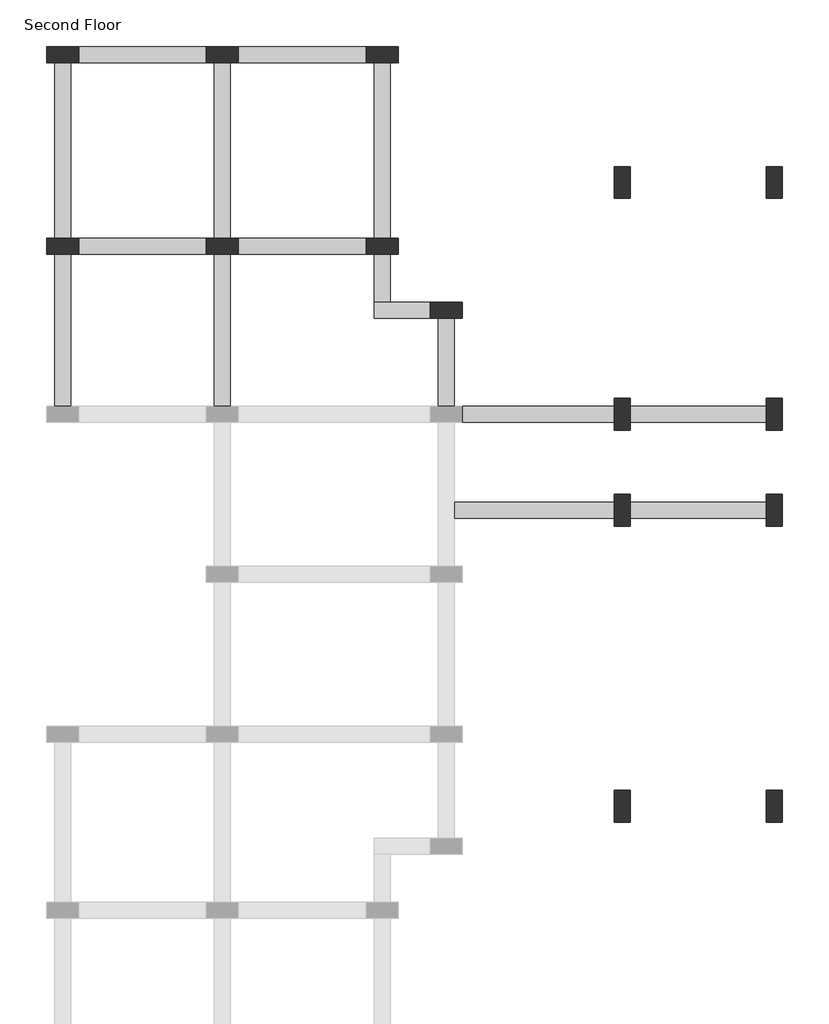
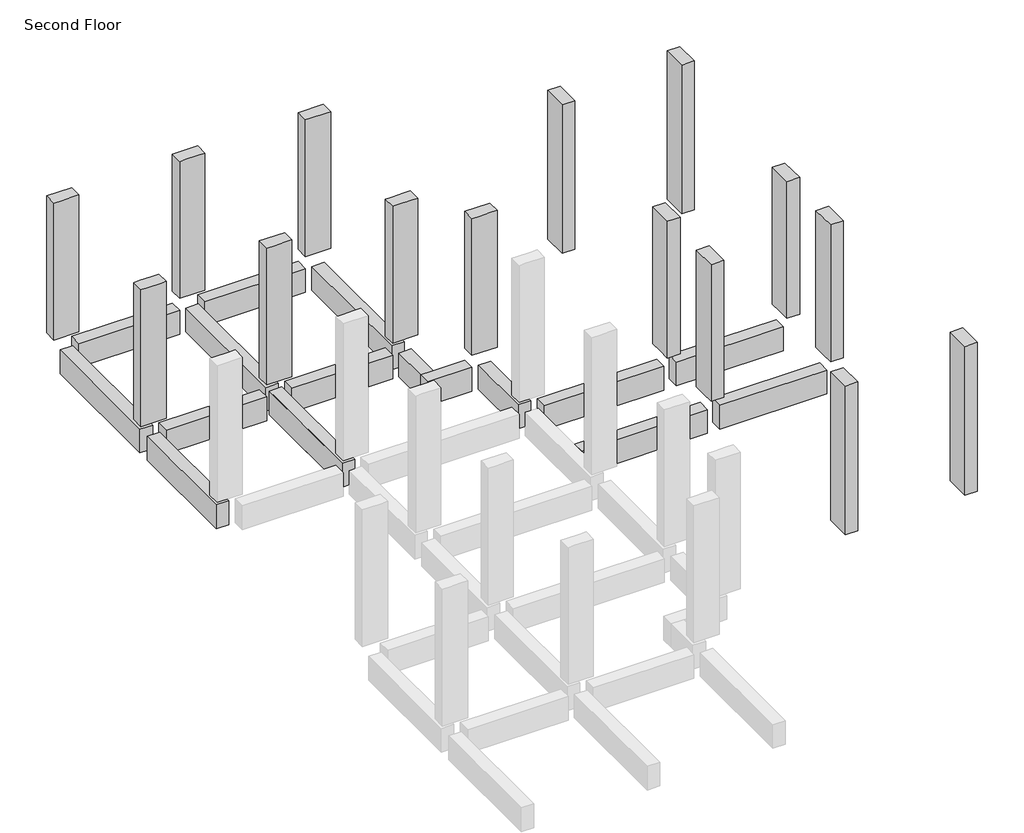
# One storey, part 2 of 2: 23 columns, 17 beams.
"""IFC4 building model written with IfcOpenShell, lengths in millimetres."""

import ifcopenshell
import ifcopenshell.guid

model = None  # the IFC model being written
_history = None  # IfcOwnerHistory: only IFC2X3 demands one
_inside = {}  # id of a spatial element -> (the spatial element, [elements in it])
_under = {}  # id of a project, library or spatial element -> (it, [spatial elements below it])
_declared = {}  # id of a project -> (the project, [libraries it declares])
_typed = {}  # id of a type object -> (the type object, [elements of that type])
_made_of = {}  # id of a material, layer set ... -> (it, [elements and type objects made of it])


def new_model(schema):
    """Start an empty IFC model of exactly this schema.

    Asked for "IFC4X3", IfcOpenShell would pick the latest addendum, in which some entities
    have other attributes; the version numbers below select the first issue.
    IFC2X3 requires an IfcOwnerHistory on every rooted entity: one is made here for all.
    """
    global model, _history
    if schema == "IFC4X3":
        model = ifcopenshell.file(schema_version=(4, 3, 0, 0))
    else:
        model = ifcopenshell.file(schema=schema)
    _inside.clear()
    _under.clear()
    _declared.clear()
    _typed.clear()
    _made_of.clear()
    _history = None
    if model.schema == "IFC2X3":
        org = make("IfcOrganization", Name="unknown")
        user = make(
            "IfcPersonAndOrganization",
            ThePerson=make("IfcPerson", FamilyName="unknown"),
            TheOrganization=org,
        )
        app = make(
            "IfcApplication",
            ApplicationDeveloper=org,
            Version="unknown",
            ApplicationFullName="unknown",
            ApplicationIdentifier="unknown",
        )
        _history = make(
            "IfcOwnerHistory",
            OwningUser=user,
            OwningApplication=app,
            ChangeAction="ADDED",
            CreationDate=0,
        )
    return model


def make(cls, **values):
    """One entity of the class cls with the attributes given. An attribute that is None is left unset."""
    return model.create_entity(
        cls, **{name: value for name, value in values.items() if value is not None}
    )


def rooted(cls, **values):
    """An entity with a GlobalId (a new one), such as an element, a storey or a relation."""
    return make(cls, GlobalId=ifcopenshell.guid.new(), OwnerHistory=_history, **values)


def si_unit(unit_type, name, prefix=None):
    """IfcSIUnit, for example si_unit("LENGTHUNIT", "METRE", prefix="MILLI")."""
    return make("IfcSIUnit", UnitType=unit_type, Prefix=prefix, Name=name)


def assignment(units):
    """IfcUnitAssignment: the units of a project."""
    return None if units is None else make("IfcUnitAssignment", Units=units)


def point(xyz):
    """IfcCartesianPoint."""
    return None if xyz is None else make("IfcCartesianPoint", Coordinates=xyz)


def direction(xyz):
    """IfcDirection."""
    return None if xyz is None else make("IfcDirection", DirectionRatios=xyz)


def frame(location, z_axis=None, x_axis=None):
    """IfcAxis2Placement3D, a coordinate frame: its origin and axes. An axis left out is left unset."""
    return make(
        "IfcAxis2Placement3D",
        Location=point(location),
        Axis=direction(z_axis),
        RefDirection=direction(x_axis),
    )


def origin():
    """The frame at (0, 0, 0) with its axes left unset."""
    return frame((0.0, 0.0, 0.0))


def place(relative_to, where):
    """IfcLocalPlacement: puts the frame where relative to a parent placement (None: the world)."""
    return make(
        "IfcLocalPlacement", PlacementRelTo=relative_to, RelativePlacement=where
    )


def context(
    kind, dimensions, precision=None, world=None, true_north=None, identifier=None
):
    """IfcGeometricRepresentationContext, for example the 3D "Model" context."""
    return make(
        "IfcGeometricRepresentationContext",
        ContextIdentifier=identifier,
        ContextType=kind,
        CoordinateSpaceDimension=dimensions,
        Precision=precision,
        WorldCoordinateSystem=world,
        TrueNorth=true_north,
    )


def project(units=None, contexts=None):
    """IfcProject with its units and contexts."""
    return rooted(
        "IfcProject",
        Name="project",
        RepresentationContexts=contexts,
        UnitsInContext=assignment(units),
    )


def spatial(cls, under=None, at=None, **own):
    """A site, building, storey or space (cls), placed at a placement, below another one or the project."""
    s = rooted(cls, ObjectPlacement=at, **own)
    if under is not None:
        _under.setdefault(under.id(), (under, []))[1].append(s)
    return s


def polyline(points):
    """IfcPolyline through the points."""
    return make("IfcPolyline", Points=[point(p) for p in points])


def outline(outer, holes=None, kind="AREA"):
    """IfcArbitraryClosedProfileDef: a profile drawn as a closed curve; with holes, ...WithVoids."""
    if holes is None:
        return make("IfcArbitraryClosedProfileDef", ProfileType=kind, OuterCurve=outer)
    return make(
        "IfcArbitraryProfileDefWithVoids",
        ProfileType=kind,
        OuterCurve=outer,
        InnerCurves=holes,
    )


def extrude(swept, where, along, depth):
    """IfcExtrudedAreaSolid: the profile swept, set in the frame where, extruded along a direction by depth."""
    return make(
        "IfcExtrudedAreaSolid",
        SweptArea=swept,
        Position=where,
        ExtrudedDirection=direction(along),
        Depth=depth,
    )


def faces_of(points, faces, orient=None, outer=None):
    """IfcFace entities. A face is a list of loops; a loop is a list of indices into points, from 0.

    orient and outer hold one flag for each loop. By default every Orientation is true, the
    first loop of a face is its IfcFaceOuterBound and the others are IfcFaceBound.
    """
    made = []
    for i, loops in enumerate(faces):
        bounds = []
        for j, loop in enumerate(loops):
            is_outer = j == 0 if outer is None else outer[i][j]
            bounds.append(
                make(
                    "IfcFaceOuterBound" if is_outer else "IfcFaceBound",
                    Bound=make("IfcPolyLoop", Polygon=[points[k] for k in loop]),
                    Orientation=True if orient is None else orient[i][j],
                )
            )
        made.append(make("IfcFace", Bounds=bounds))
    return made


def faceted_brep(points, faces, orient=None, outer=None, voids=None):
    """IfcFacetedBrep: a solid bounded by flat faces; with voids (closed shells), ...WithVoids."""
    shared = [point(p) for p in points]
    hull = make("IfcClosedShell", CfsFaces=faces_of(shared, faces, orient, outer))
    if voids is None:
        return make("IfcFacetedBrep", Outer=hull)
    return make(
        "IfcFacetedBrepWithVoids",
        Outer=hull,
        Voids=[
            make(cls, CfsFaces=faces_of(shared, fs, o, b)) for cls, fs, o, b in voids
        ],
    )


def shape(context_of_items, identifier, shape_type, items):
    """IfcShapeRepresentation: the items that make up one representation, for example the "Body"."""
    return make(
        "IfcShapeRepresentation",
        ContextOfItems=context_of_items,
        RepresentationIdentifier=identifier,
        RepresentationType=shape_type,
        Items=items,
    )


def made_of(thing, what):
    """Note that an element or type object is made of a material, layer set ...; save() writes the relation."""
    if what is not None:
        _made_of.setdefault(what.id(), (what, []))[1].append(thing)
    return thing


def element(
    cls,
    number,
    at=None,
    inside=None,
    cuts=None,
    type_object=None,
    material=None,
    context=None,
    identifier="Body",
    shape_type=None,
    held_by="IfcProductDefinitionShape",
    body=None,
    shapes=None,
    **own,
):
    """One element of the class cls, such as IfcWall. Its Tag is "e" and its number.

    at: its placement. inside: the storey or other place that contains it. cuts: it is an
    opening in that element (IfcRelVoidsElement). A single representation is given by context,
    identifier, shape_type and body (its items); several are given by shapes. held_by: the class
    of the entity that holds the representations. save() writes the other relations.
    """
    e = rooted(cls, Tag="e%d" % number, ObjectPlacement=at, **own)
    if body is not None:
        shapes = [shape(context, identifier, shape_type, body)]
    if shapes is not None:
        e.Representation = make(held_by, Representations=shapes)
    if inside is not None:
        _inside.setdefault(inside.id(), (inside, []))[1].append(e)
    if cuts is not None:
        rooted(
            "IfcRelVoidsElement", RelatingBuildingElement=cuts, RelatedOpeningElement=e
        )
    if type_object is not None:
        _typed.setdefault(type_object.id(), (type_object, []))[1].append(e)
    return made_of(e, material)


def aggregate(whole, parts):
    """IfcRelAggregates: a whole, such as a stair, and the parts it consists of."""
    return rooted("IfcRelAggregates", RelatingObject=whole, RelatedObjects=parts)


def save(model, path):
    """Write the relations noted so far, then the file.

    IfcRelAggregates (storeys below a building ...), IfcRelContainedInSpatialStructure (elements
    in a storey), IfcRelDefinesByType, IfcRelAssociatesMaterial and IfcRelDeclares: one each for
    every whole, place, type object, material and project.
    """
    for whole, parts in _under.values():
        aggregate(whole, parts)
    for where, things in _inside.values():
        rooted(
            "IfcRelContainedInSpatialStructure",
            RelatedElements=things,
            RelatingStructure=where,
        )
    for kind, things in _typed.values():
        rooted("IfcRelDefinesByType", RelatedObjects=things, RelatingType=kind)
    for what, things in _made_of.values():
        rooted("IfcRelAssociatesMaterial", RelatedObjects=things, RelatingMaterial=what)
    for by, libraries in _declared.values():
        rooted("IfcRelDeclares", RelatingContext=by, RelatedDefinitions=libraries)
    model.write(path)


model = new_model("IFC4")

# Units and contexts
model_context = context("Model", 3, world=origin())
ifc_project = project(units=[si_unit("LENGTHUNIT", "METRE", prefix="MILLI")], contexts=[model_context])

# Site, building, storey
site = spatial("IfcSite", under=ifc_project)
building = spatial("IfcBuilding", under=site)
storey = spatial("IfcBuildingStorey", under=building, Name="Second Floor", Elevation=3810.0)

# Beams
placement = place(None, origin())
element("IfcBeam", 1, ObjectType="Concrete-Rectangular Beam : 12 x 24", at=placement, inside=storey, context=model_context, shape_type="SweptSolid", body=[
    extrude(outline(polyline([(-15067.9554735, 14342.1867088), (-15067.9554735, 14646.9867088), (-12629.5554735, 14646.9867088), (-12629.5554735, 14342.1867088), (-15067.9554735, 14342.1867088)])), frame((0.0, 0.0, 2895.6), z_axis=(0.0, 0.0, 1.0), x_axis=(1.0, 0.0, 0.0)), (0.0, 0.0, 1.0), 609.6),
])
element("IfcBeam", 2, ObjectType="Concrete-Rectangular Beam : 12 x 24", at=placement, inside=storey, context=model_context, shape_type="SweptSolid", body=[
    extrude(outline(polyline([(-12019.9554735, 14342.1867088), (-12019.9554735, 14646.9867088), (-9581.5554735, 14646.9867088), (-9581.5554735, 14342.1867088), (-12019.9554735, 14342.1867088)])), frame((0.0, 0.0, 2895.6), z_axis=(0.0, 0.0, 1.0), x_axis=(1.0, 0.0, 0.0)), (0.0, 0.0, 1.0), 609.6),
])
element("IfcBeam", 3, ObjectType="Concrete-Rectangular Beam : 12 x 24", at=placement, inside=storey, context=model_context, shape_type="SweptSolid", body=[
    extrude(outline(polyline([(-9429.1554735, 14342.1867088), (-9124.3554735, 14342.1867088), (-9124.3554735, 10989.3867088), (-9429.1554735, 10989.3867088), (-9429.1554735, 14342.1867088)])), frame((0.0, 0.0, 2895.6), z_axis=(0.0, 0.0, 1.0), x_axis=(1.0, 0.0, 0.0)), (0.0, 0.0, 1.0), 609.6),
])
element("IfcBeam", 4, ObjectType="Concrete-Rectangular Beam : 12 x 24", at=placement, inside=storey, context=model_context, shape_type="SweptSolid", body=[
    extrude(outline(polyline([(-7905.1554735, 7788.9867088), (-8209.9554735, 7788.9867088), (-8209.9554735, 9465.3867088), (-7905.1554735, 9465.3867088), (-7905.1554735, 7788.9867088)])), frame((0.0, 0.0, 2895.6), z_axis=(0.0, 0.0, 1.0), x_axis=(1.0, 0.0, 0.0)), (0.0, 0.0, 1.0), 609.6),
])
element("IfcBeam", 5, ObjectType="Concrete-Rectangular Beam : 12 x 24", at=placement, inside=storey, context=model_context, shape_type="Brep", body=[
    faceted_brep([(-9429.1554735, 9770.1867088, 3505.2), (-9429.1554735, 9465.3867088, 3505.2), (-8362.3554735, 9465.3867088, 3505.2), (-8362.3554735, 9770.1867088, 3505.2), (-9124.3554735, 9770.1867088, 3505.2), (-9429.1554735, 9770.1867088, 2895.6), (-8362.3554735, 9770.1867088, 2895.6), (-9124.3554735, 9770.1867088, 2895.6), (-9429.1554735, 9465.3867088, 2895.6), (-8362.3554735, 9465.3867088, 2895.6)], [[[0, 1, 2, 3, 4]], [[5, 0, 4, 3, 6, 7]], [[8, 5, 7, 6, 9]], [[1, 8, 9, 2]], [[3, 2, 9, 6]], [[1, 0, 5, 8]]]),
])
element("IfcBeam", 6, ObjectType="Concrete-Rectangular Beam : 12 x 24", at=placement, inside=storey, context=model_context, shape_type="SweptSolid", body=[
    extrude(outline(polyline([(-15525.1554735, 14342.1867088), (-15220.3554735, 14342.1867088), (-15220.3554735, 10989.3867088), (-15525.1554735, 10989.3867088), (-15525.1554735, 14342.1867088)])), frame((0.0, 0.0, 2895.6), z_axis=(0.0, 0.0, 1.0), x_axis=(1.0, 0.0, 0.0)), (0.0, 0.0, 1.0), 609.6),
])
element("IfcBeam", 7, ObjectType="Concrete-Rectangular Beam : 12 x 24", at=placement, inside=storey, context=model_context, shape_type="SweptSolid", body=[
    extrude(outline(polyline([(-12477.1554735, 14342.1867088), (-12172.3554735, 14342.1867088), (-12172.3554735, 10989.3867088), (-12477.1554735, 10989.3867088), (-12477.1554735, 14342.1867088)])), frame((0.0, 0.0, 2895.6), z_axis=(0.0, 0.0, 1.0), x_axis=(1.0, 0.0, 0.0)), (0.0, 0.0, 1.0), 609.6),
])
element("IfcBeam", 8, ObjectType="Concrete-Rectangular Beam : 12 x 24", at=placement, inside=storey, context=model_context, shape_type="SweptSolid", body=[
    extrude(outline(polyline([(-15067.9554735, 10684.5867088), (-15067.9554735, 10989.3867088), (-12629.5554735, 10989.3867088), (-12629.5554735, 10684.5867088), (-15067.9554735, 10684.5867088)])), frame((0.0, 0.0, 2895.6), z_axis=(0.0, 0.0, 1.0), x_axis=(1.0, 0.0, 0.0)), (0.0, 0.0, 1.0), 609.6),
])
element("IfcBeam", 9, ObjectType="Concrete-Rectangular Beam : 12 x 24", at=placement, inside=storey, context=model_context, shape_type="SweptSolid", body=[
    extrude(outline(polyline([(-12477.1554735, 10836.9867088), (-12172.3554735, 10836.9867088), (-12172.3554735, 7788.9867088), (-12477.1554735, 7788.9867088), (-12477.1554735, 10836.9867088)])), frame((0.0, 0.0, 2895.6), z_axis=(0.0, 0.0, 1.0), x_axis=(1.0, 0.0, 0.0)), (0.0, 0.0, 1.0), 609.6),
])
element("IfcBeam", 10, ObjectType="Concrete-Rectangular Beam : 12 x 24", at=placement, inside=storey, context=model_context, shape_type="SweptSolid", body=[
    extrude(outline(polyline([(-15525.1554735, 10684.5867088), (-15220.3554735, 10684.5867088), (-15220.3554735, 7788.9867088), (-15525.1554735, 7788.9867088), (-15525.1554735, 10684.5867088)])), frame((0.0, 0.0, 2895.6), z_axis=(0.0, 0.0, 1.0), x_axis=(1.0, 0.0, 0.0)), (0.0, 0.0, 1.0), 609.6),
])
element("IfcBeam", 11, ObjectType="Concrete-Rectangular Beam : 12 x 24", at=placement, inside=storey, context=model_context, shape_type="SweptSolid", body=[
    extrude(outline(polyline([(-4552.3554735, 5655.3867088), (-4552.3554735, 5960.1867088), (-1961.5554735, 5960.1867088), (-1961.5554735, 5655.3867088), (-4552.3554735, 5655.3867088)])), frame((0.0, 0.0, 2895.6), z_axis=(0.0, 0.0, 1.0), x_axis=(1.0, 0.0, 0.0)), (0.0, 0.0, 1.0), 609.6),
])
element("IfcBeam", 12, ObjectType="Concrete-Rectangular Beam : 12 x 24", at=placement, inside=storey, context=model_context, shape_type="SweptSolid", body=[
    extrude(outline(polyline([(-4857.1554735, 7788.9867088), (-4857.1554735, 7484.1867088), (-7752.7554735, 7484.1867088), (-7752.7554735, 7788.9867088), (-4857.1554735, 7788.9867088)])), frame((0.0, 0.0, 2895.6), z_axis=(0.0, 0.0, 1.0), x_axis=(1.0, 0.0, 0.0)), (0.0, 0.0, 1.0), 609.6),
])
element("IfcBeam", 13, ObjectType="Concrete-Rectangular Beam : 12 x 24", at=placement, inside=storey, context=model_context, shape_type="SweptSolid", body=[
    extrude(outline(polyline([(-4857.1554735, 5960.1867088), (-4857.1554735, 5655.3867088), (-7905.1554735, 5655.3867088), (-7905.1554735, 5960.1867088), (-4857.1554735, 5960.1867088)])), frame((0.0, 0.0, 2895.6), z_axis=(0.0, 0.0, 1.0), x_axis=(1.0, 0.0, 0.0)), (0.0, 0.0, 1.0), 609.6),
])
element("IfcBeam", 14, ObjectType="Concrete-Rectangular Beam : 12 x 24", at=placement, inside=storey, context=model_context, shape_type="SweptSolid", body=[
    extrude(outline(polyline([(-4552.3554735, 7484.1867088), (-4552.3554735, 7788.9867088), (-1961.5554735, 7788.9867088), (-1961.5554735, 7484.1867088), (-4552.3554735, 7484.1867088)])), frame((0.0, 0.0, 2895.6), z_axis=(0.0, 0.0, 1.0), x_axis=(1.0, 0.0, 0.0)), (0.0, 0.0, 1.0), 609.6),
])
element("IfcBeam", 15, ObjectType="Concrete-Rectangular Beam : 12 x 24", at=placement, inside=storey, context=model_context, shape_type="SweptSolid", body=[
    extrude(outline(polyline([(-12477.1554735, 10684.5867088), (-12172.3554735, 10684.5867088), (-12172.3554735, 7788.9867088), (-12477.1554735, 7788.9867088), (-12477.1554735, 10684.5867088)])), frame((0.0, 0.0, 2895.6), z_axis=(0.0, 0.0, 1.0), x_axis=(1.0, 0.0, 0.0)), (0.0, 0.0, 1.0), 609.6),
])
element("IfcBeam", 16, ObjectType="Concrete-Rectangular Beam : 12 x 24", at=placement, inside=storey, context=model_context, shape_type="SweptSolid", body=[
    extrude(outline(polyline([(-12019.9554735, 10684.5867088), (-12019.9554735, 10989.3867088), (-9581.5554735, 10989.3867088), (-9581.5554735, 10684.5867088), (-12019.9554735, 10684.5867088)])), frame((0.0, 0.0, 2895.6), z_axis=(0.0, 0.0, 1.0), x_axis=(1.0, 0.0, 0.0)), (0.0, 0.0, 1.0), 609.6),
])
element("IfcBeam", 17, ObjectType="Concrete-Rectangular Beam : 12 x 24", at=placement, inside=storey, context=model_context, shape_type="SweptSolid", body=[
    extrude(outline(polyline([(-9124.3554735, 9770.1867088), (-9429.1554735, 9770.1867088), (-9429.1554735, 10684.5867088), (-9124.3554735, 10684.5867088), (-9124.3554735, 9770.1867088)])), frame((0.0, 0.0, 2895.6), z_axis=(0.0, 0.0, 1.0), x_axis=(1.0, 0.0, 0.0)), (0.0, 0.0, 1.0), 609.6),
])

# Columns
element("IfcColumn", 18, ObjectType="Concrete-Rectangular-Column : 12 x 24", at=placement, inside=storey, context=model_context, shape_type="Brep", body=[
    faceted_brep([(-15677.5554735, 14646.9867088, 3810.0), (-15067.9554735, 14646.9867088, 3810.0), (-15067.9554735, 14342.1867088, 3810.0), (-15677.5554735, 14342.1867088, 3810.0), (-15677.5554735, 14646.9867088, 7315.2), (-15067.9554735, 14646.9867088, 7315.2), (-15067.9554735, 14646.9867088, 6705.6), (-15067.9554735, 14342.1867088, 7315.2), (-15067.9554735, 14342.1867088, 6705.6), (-15220.3554735, 14342.1867088, 7315.2), (-15525.1554735, 14342.1867088, 7315.2), (-15677.5554735, 14342.1867088, 7315.2)], [[[0, 1, 2, 3]], [[4, 5, 6, 1, 0]], [[5, 7, 8, 2, 1, 6]], [[7, 9, 10, 11, 3, 2, 8]], [[11, 4, 0, 3]], [[4, 11, 10, 9, 7, 5]]]),
])
element("IfcColumn", 19, ObjectType="Concrete-Rectangular-Column : 12 x 24", at=placement, inside=storey, context=model_context, shape_type="Brep", body=[
    faceted_brep([(-12629.5554735, 14646.9867088, 3810.0), (-12019.9554735, 14646.9867088, 3810.0), (-12019.9554735, 14342.1867088, 3810.0), (-12629.5554735, 14342.1867088, 3810.0), (-12629.5554735, 14646.9867088, 7315.2), (-12019.9554735, 14646.9867088, 7315.2), (-12019.9554735, 14646.9867088, 6705.6), (-12629.5554735, 14646.9867088, 6705.6), (-12019.9554735, 14342.1867088, 7315.2), (-12019.9554735, 14342.1867088, 6705.6), (-12172.3554735, 14342.1867088, 7315.2), (-12477.1554735, 14342.1867088, 7315.2), (-12629.5554735, 14342.1867088, 7315.2), (-12629.5554735, 14342.1867088, 6705.6)], [[[0, 1, 2, 3]], [[4, 5, 6, 1, 0, 7]], [[5, 8, 9, 2, 1, 6]], [[8, 10, 11, 12, 13, 3, 2, 9]], [[12, 4, 7, 0, 3, 13]], [[4, 12, 11, 10, 8, 5]]]),
])
element("IfcColumn", 20, ObjectType="Concrete-Rectangular-Column : 12 x 24", at=placement, inside=storey, context=model_context, shape_type="Brep", body=[
    faceted_brep([(-9581.5554735, 14646.9867088, 3810.0), (-8971.9554735, 14646.9867088, 3810.0), (-8971.9554735, 14342.1867088, 3810.0), (-9581.5554735, 14342.1867088, 3810.0), (-9581.5554735, 14646.9867088, 7315.2), (-8971.9554735, 14646.9867088, 7315.2), (-9581.5554735, 14646.9867088, 6705.6), (-8971.9554735, 14342.1867088, 7315.2), (-9124.3554735, 14342.1867088, 7315.2), (-9429.1554735, 14342.1867088, 7315.2), (-9581.5554735, 14342.1867088, 7315.2), (-9581.5554735, 14342.1867088, 6705.6)], [[[0, 1, 2, 3]], [[4, 5, 1, 0, 6]], [[5, 7, 2, 1]], [[7, 8, 9, 10, 11, 3, 2]], [[10, 4, 6, 0, 3, 11]], [[4, 10, 9, 8, 7, 5]]]),
])
element("IfcColumn", 21, ObjectType="Concrete-Rectangular-Column : 12 x 24", at=placement, inside=storey, context=model_context, shape_type="Brep", body=[
    faceted_brep([(-15677.5554735, 10989.3867088, 3810.0), (-15067.9554735, 10989.3867088, 3810.0), (-15067.9554735, 10684.5867088, 3810.0), (-15677.5554735, 10684.5867088, 3810.0), (-15677.5554735, 10989.3867088, 7315.2), (-15525.1554735, 10989.3867088, 7315.2), (-15220.3554735, 10989.3867088, 7315.2), (-15067.9554735, 10989.3867088, 7315.2), (-15067.9554735, 10989.3867088, 6705.6), (-15067.9554735, 10684.5867088, 7315.2), (-15067.9554735, 10684.5867088, 6705.6), (-15220.3554735, 10684.5867088, 7315.2), (-15525.1554735, 10684.5867088, 7315.2), (-15677.5554735, 10684.5867088, 7315.2)], [[[0, 1, 2, 3]], [[4, 5, 6, 7, 8, 1, 0]], [[7, 9, 10, 2, 1, 8]], [[9, 11, 12, 13, 3, 2, 10]], [[13, 4, 0, 3]], [[4, 13, 12, 11, 9, 7, 6, 5]]]),
])
element("IfcColumn", 22, ObjectType="Concrete-Rectangular-Column : 12 x 24", at=placement, inside=storey, context=model_context, shape_type="Brep", body=[
    faceted_brep([(-12629.5554735, 10989.3867088, 3810.0), (-12019.9554735, 10989.3867088, 3810.0), (-12019.9554735, 10684.5867088, 3810.0), (-12629.5554735, 10684.5867088, 3810.0), (-12629.5554735, 10989.3867088, 7315.2), (-12477.1554735, 10989.3867088, 7315.2), (-12172.3554735, 10989.3867088, 7315.2), (-12019.9554735, 10989.3867088, 7315.2), (-12019.9554735, 10989.3867088, 6705.6), (-12629.5554735, 10989.3867088, 6705.6), (-12019.9554735, 10684.5867088, 7315.2), (-12019.9554735, 10684.5867088, 6705.6), (-12172.3554735, 10684.5867088, 7315.2), (-12477.1554735, 10684.5867088, 7315.2), (-12629.5554735, 10684.5867088, 7315.2), (-12629.5554735, 10684.5867088, 6705.6)], [[[0, 1, 2, 3]], [[4, 5, 6, 7, 8, 1, 0, 9]], [[7, 10, 11, 2, 1, 8]], [[10, 12, 13, 14, 15, 3, 2, 11]], [[14, 4, 9, 0, 3, 15]], [[4, 14, 13, 12, 10, 7, 6, 5]]]),
])
element("IfcColumn", 23, ObjectType="Concrete-Rectangular-Column : 12 x 24", at=placement, inside=storey, context=model_context, shape_type="Brep", body=[
    faceted_brep([(-9581.5554735, 10989.3867088, 3810.0), (-8971.9554735, 10989.3867088, 3810.0), (-8971.9554735, 10684.5867088, 3810.0), (-9581.5554735, 10684.5867088, 3810.0), (-9581.5554735, 10989.3867088, 7315.2), (-9429.1554735, 10989.3867088, 7315.2), (-9124.3554735, 10989.3867088, 7315.2), (-8971.9554735, 10989.3867088, 7315.2), (-9581.5554735, 10989.3867088, 6705.6), (-8971.9554735, 10684.5867088, 7315.2), (-9124.3554735, 10684.5867088, 7315.2), (-9429.1554735, 10684.5867088, 7315.2), (-9581.5554735, 10684.5867088, 7315.2), (-9581.5554735, 10684.5867088, 6705.6)], [[[0, 1, 2, 3]], [[4, 5, 6, 7, 1, 0, 8]], [[7, 9, 2, 1]], [[9, 10, 11, 12, 13, 3, 2]], [[12, 4, 8, 0, 3, 13]], [[4, 12, 11, 10, 9, 7, 6, 5]]]),
])
element("IfcColumn", 24, ObjectType="Concrete-Rectangular-Column : 12 x 24", at=placement, inside=storey, context=model_context, shape_type="Brep", body=[
    faceted_brep([(-8362.3554735, 9770.1867088, 3810.0), (-7752.7554735, 9770.1867088, 3810.0), (-7752.7554735, 9465.3867088, 3810.0), (-8362.3554735, 9465.3867088, 3810.0), (-8362.3554735, 9770.1867088, 7315.2), (-7752.7554735, 9770.1867088, 7315.2), (-8362.3554735, 9770.1867088, 6705.6), (-7752.7554735, 9465.3867088, 7315.2), (-7905.1554735, 9465.3867088, 7315.2), (-8209.9554735, 9465.3867088, 7315.2), (-8362.3554735, 9465.3867088, 7315.2), (-8362.3554735, 9465.3867088, 6705.6)], [[[0, 1, 2, 3]], [[4, 5, 1, 0, 6]], [[5, 7, 2, 1]], [[7, 8, 9, 10, 11, 3, 2]], [[10, 4, 6, 0, 3, 11]], [[4, 10, 9, 8, 7, 5]]]),
])
element("IfcColumn", 25, ObjectType="Concrete-Rectangular-Column : 12 x 24", at=placement, inside=storey, context=model_context, shape_type="SweptSolid", body=[
    extrude(outline(polyline([(-4552.3554735, 12360.9867088), (-4552.3554735, 11751.3867088), (-4857.1554735, 11751.3867088), (-4857.1554735, 12360.9867088), (-4552.3554735, 12360.9867088)])), frame((0.0, 0.0, 3810.0), z_axis=(0.0, 0.0, 1.0), x_axis=(1.0, 0.0, 0.0)), (0.0, 0.0, 1.0), 3810.0),
])
element("IfcColumn", 26, ObjectType="Concrete-Rectangular-Column : 12 x 24", at=placement, inside=storey, context=model_context, shape_type="SweptSolid", body=[
    extrude(outline(polyline([(-1656.7554735, 12360.9867088), (-1656.7554735, 11751.3867088), (-1961.5554735, 11751.3867088), (-1961.5554735, 12360.9867088), (-1656.7554735, 12360.9867088)])), frame((0.0, 0.0, 3810.0), z_axis=(0.0, 0.0, 1.0), x_axis=(1.0, 0.0, 0.0)), (0.0, 0.0, 1.0), 3810.0),
])
element("IfcColumn", 27, ObjectType="Concrete-Rectangular-Column : 12 x 24", at=placement, inside=storey, context=model_context, shape_type="Brep", body=[
    faceted_brep([(-4857.1554735, 7331.7867088, 3810.0), (-4857.1554735, 7636.5867088, 3810.0), (-4857.1554735, 7941.3867088, 3810.0), (-4552.3554735, 7941.3867088, 3810.0), (-4552.3554735, 7636.5867088, 3810.0), (-4552.3554735, 7331.7867088, 3810.0), (-4857.1554735, 7331.7867088, 7315.2), (-4857.1554735, 7941.3867088, 7315.2), (-4552.3554735, 7941.3867088, 7315.2), (-4552.3554735, 7331.7867088, 7315.2)], [[[0, 1, 2, 3, 4, 5]], [[2, 1, 0, 6, 7]], [[3, 2, 7, 8]], [[5, 4, 3, 8, 9]], [[0, 5, 9, 6]], [[7, 6, 9, 8]]]),
])
element("IfcColumn", 28, ObjectType="Concrete-Rectangular-Column : 12 x 24", at=placement, inside=storey, context=model_context, shape_type="Brep", body=[
    faceted_brep([(-4552.3554735, 6112.5867088, 3810.0), (-4552.3554735, 5807.7867088, 3810.0), (-4552.3554735, 5502.9867088, 3810.0), (-4857.1554735, 5502.9867088, 3810.0), (-4857.1554735, 5807.7867088, 3810.0), (-4857.1554735, 6112.5867088, 3810.0), (-4552.3554735, 6112.5867088, 7315.2), (-4552.3554735, 5502.9867088, 7315.2), (-4857.1554735, 5502.9867088, 7315.2), (-4857.1554735, 6112.5867088, 7315.2)], [[[0, 1, 2, 3, 4, 5]], [[2, 1, 0, 6, 7]], [[3, 2, 7, 8]], [[5, 4, 3, 8, 9]], [[0, 5, 9, 6]], [[7, 6, 9, 8]]]),
])
element("IfcColumn", 29, ObjectType="Concrete-Rectangular-Column : 12 x 24", at=placement, inside=storey, context=model_context, shape_type="SweptSolid", body=[
    extrude(outline(polyline([(-4552.3554735, 473.7867088), (-4552.3554735, -135.8132912), (-4857.1554735, -135.8132912), (-4857.1554735, 473.7867088), (-4552.3554735, 473.7867088)])), frame((0.0, 0.0, 3810.0), z_axis=(0.0, 0.0, 1.0), x_axis=(1.0, 0.0, 0.0)), (0.0, 0.0, 1.0), 3810.0),
])
element("IfcColumn", 30, ObjectType="Concrete-Rectangular-Column : 12 x 24", at=placement, inside=storey, context=model_context, shape_type="SweptSolid", body=[
    extrude(outline(polyline([(-1656.7554735, 473.7867088), (-1656.7554735, -135.8132912), (-1961.5554735, -135.8132912), (-1961.5554735, 473.7867088), (-1656.7554735, 473.7867088)])), frame((0.0, 0.0, 3810.0), z_axis=(0.0, 0.0, 1.0), x_axis=(1.0, 0.0, 0.0)), (0.0, 0.0, 1.0), 3810.0),
])
element("IfcColumn", 31, ObjectType="Concrete-Rectangular-Column : 12 x 24", at=placement, inside=storey, context=model_context, shape_type="Brep", body=[
    faceted_brep([(-1961.5554735, 7331.7867088, 3810.0), (-1961.5554735, 7636.5867088, 3810.0), (-1961.5554735, 7941.3867088, 3810.0), (-1656.7554735, 7941.3867088, 3810.0), (-1656.7554735, 7636.5867088, 3810.0), (-1656.7554735, 7331.7867088, 3810.0), (-1961.5554735, 7331.7867088, 7315.2), (-1961.5554735, 7941.3867088, 7315.2), (-1656.7554735, 7941.3867088, 7315.2), (-1656.7554735, 7331.7867088, 7315.2)], [[[0, 1, 2, 3, 4, 5]], [[2, 1, 0, 6, 7]], [[3, 2, 7, 8]], [[5, 4, 3, 8, 9]], [[0, 5, 9, 6]], [[7, 6, 9, 8]]]),
])
element("IfcColumn", 32, ObjectType="Concrete-Rectangular-Column : 12 x 24", at=placement, inside=storey, context=model_context, shape_type="Brep", body=[
    faceted_brep([(-1656.7554735, 6112.5867088, 3810.0), (-1656.7554735, 5807.7867088, 3810.0), (-1656.7554735, 5502.9867088, 3810.0), (-1961.5554735, 5502.9867088, 3810.0), (-1961.5554735, 5807.7867088, 3810.0), (-1961.5554735, 6112.5867088, 3810.0), (-1656.7554735, 6112.5867088, 7315.2), (-1656.7554735, 5502.9867088, 7315.2), (-1961.5554735, 5502.9867088, 7315.2), (-1961.5554735, 6112.5867088, 7315.2)], [[[0, 1, 2, 3, 4, 5]], [[2, 1, 0, 6, 7]], [[3, 2, 7, 8]], [[5, 4, 3, 8, 9]], [[0, 5, 9, 6]], [[7, 6, 9, 8]]]),
])
element("IfcColumn", 33, ObjectType="Concrete-Rectangular-Column : 12 x 24", at=placement, inside=storey, context=model_context, shape_type="Brep", body=[
    faceted_brep([(-15677.5554735, 14646.9867088, 3810.0), (-15067.9554735, 14646.9867088, 3810.0), (-15067.9554735, 14342.1867088, 3810.0), (-15677.5554735, 14342.1867088, 3810.0), (-15677.5554735, 14646.9867088, 7315.2), (-15067.9554735, 14646.9867088, 7315.2), (-15067.9554735, 14646.9867088, 6705.6), (-15067.9554735, 14342.1867088, 7315.2), (-15067.9554735, 14342.1867088, 6705.6), (-15220.3554735, 14342.1867088, 7315.2), (-15525.1554735, 14342.1867088, 7315.2), (-15677.5554735, 14342.1867088, 7315.2)], [[[0, 1, 2, 3]], [[4, 5, 6, 1, 0]], [[5, 7, 8, 2, 1, 6]], [[7, 9, 10, 11, 3, 2, 8]], [[11, 4, 0, 3]], [[4, 11, 10, 9, 7, 5]]]),
])
element("IfcColumn", 34, ObjectType="Concrete-Rectangular-Column : 12 x 24", at=placement, inside=storey, context=model_context, shape_type="Brep", body=[
    faceted_brep([(-12629.5554735, 14646.9867088, 3810.0), (-12019.9554735, 14646.9867088, 3810.0), (-12019.9554735, 14342.1867088, 3810.0), (-12629.5554735, 14342.1867088, 3810.0), (-12629.5554735, 14646.9867088, 7315.2), (-12019.9554735, 14646.9867088, 7315.2), (-12019.9554735, 14646.9867088, 6705.6), (-12629.5554735, 14646.9867088, 6705.6), (-12019.9554735, 14342.1867088, 7315.2), (-12019.9554735, 14342.1867088, 6705.6), (-12172.3554735, 14342.1867088, 7315.2), (-12477.1554735, 14342.1867088, 7315.2), (-12629.5554735, 14342.1867088, 7315.2), (-12629.5554735, 14342.1867088, 6705.6)], [[[0, 1, 2, 3]], [[4, 5, 6, 1, 0, 7]], [[5, 8, 9, 2, 1, 6]], [[8, 10, 11, 12, 13, 3, 2, 9]], [[12, 4, 7, 0, 3, 13]], [[4, 12, 11, 10, 8, 5]]]),
])
element("IfcColumn", 35, ObjectType="Concrete-Rectangular-Column : 12 x 24", at=placement, inside=storey, context=model_context, shape_type="Brep", body=[
    faceted_brep([(-9581.5554735, 14646.9867088, 3810.0), (-8971.9554735, 14646.9867088, 3810.0), (-8971.9554735, 14342.1867088, 3810.0), (-9581.5554735, 14342.1867088, 3810.0), (-9581.5554735, 14646.9867088, 7315.2), (-8971.9554735, 14646.9867088, 7315.2), (-9581.5554735, 14646.9867088, 6705.6), (-8971.9554735, 14342.1867088, 7315.2), (-9124.3554735, 14342.1867088, 7315.2), (-9429.1554735, 14342.1867088, 7315.2), (-9581.5554735, 14342.1867088, 7315.2), (-9581.5554735, 14342.1867088, 6705.6)], [[[0, 1, 2, 3]], [[4, 5, 1, 0, 6]], [[5, 7, 2, 1]], [[7, 8, 9, 10, 11, 3, 2]], [[10, 4, 6, 0, 3, 11]], [[4, 10, 9, 8, 7, 5]]]),
])
element("IfcColumn", 36, ObjectType="Concrete-Rectangular-Column : 12 x 24", at=placement, inside=storey, context=model_context, shape_type="Brep", body=[
    faceted_brep([(-15677.5554735, 10989.3867088, 3810.0), (-15067.9554735, 10989.3867088, 3810.0), (-15067.9554735, 10684.5867088, 3810.0), (-15677.5554735, 10684.5867088, 3810.0), (-15677.5554735, 10989.3867088, 7315.2), (-15525.1554735, 10989.3867088, 7315.2), (-15220.3554735, 10989.3867088, 7315.2), (-15067.9554735, 10989.3867088, 7315.2), (-15067.9554735, 10989.3867088, 6705.6), (-15067.9554735, 10684.5867088, 7315.2), (-15067.9554735, 10684.5867088, 6705.6), (-15220.3554735, 10684.5867088, 7315.2), (-15525.1554735, 10684.5867088, 7315.2), (-15677.5554735, 10684.5867088, 7315.2)], [[[0, 1, 2, 3]], [[4, 5, 6, 7, 8, 1, 0]], [[7, 9, 10, 2, 1, 8]], [[9, 11, 12, 13, 3, 2, 10]], [[13, 4, 0, 3]], [[4, 13, 12, 11, 9, 7, 6, 5]]]),
])
element("IfcColumn", 37, ObjectType="Concrete-Rectangular-Column : 12 x 24", at=placement, inside=storey, context=model_context, shape_type="Brep", body=[
    faceted_brep([(-12629.5554735, 10989.3867088, 3810.0), (-12019.9554735, 10989.3867088, 3810.0), (-12019.9554735, 10684.5867088, 3810.0), (-12629.5554735, 10684.5867088, 3810.0), (-12629.5554735, 10989.3867088, 7315.2), (-12477.1554735, 10989.3867088, 7315.2), (-12172.3554735, 10989.3867088, 7315.2), (-12019.9554735, 10989.3867088, 7315.2), (-12019.9554735, 10989.3867088, 6705.6), (-12629.5554735, 10989.3867088, 6705.6), (-12019.9554735, 10684.5867088, 7315.2), (-12019.9554735, 10684.5867088, 6705.6), (-12172.3554735, 10684.5867088, 7315.2), (-12477.1554735, 10684.5867088, 7315.2), (-12629.5554735, 10684.5867088, 7315.2), (-12629.5554735, 10684.5867088, 6705.6)], [[[0, 1, 2, 3]], [[4, 5, 6, 7, 8, 1, 0, 9]], [[7, 10, 11, 2, 1, 8]], [[10, 12, 13, 14, 15, 3, 2, 11]], [[14, 4, 9, 0, 3, 15]], [[4, 14, 13, 12, 10, 7, 6, 5]]]),
])
element("IfcColumn", 38, ObjectType="Concrete-Rectangular-Column : 12 x 24", at=placement, inside=storey, context=model_context, shape_type="Brep", body=[
    faceted_brep([(-9581.5554735, 10989.3867088, 3810.0), (-8971.9554735, 10989.3867088, 3810.0), (-8971.9554735, 10684.5867088, 3810.0), (-9581.5554735, 10684.5867088, 3810.0), (-9581.5554735, 10989.3867088, 7315.2), (-9429.1554735, 10989.3867088, 7315.2), (-9124.3554735, 10989.3867088, 7315.2), (-8971.9554735, 10989.3867088, 7315.2), (-9581.5554735, 10989.3867088, 6705.6), (-8971.9554735, 10684.5867088, 7315.2), (-9124.3554735, 10684.5867088, 7315.2), (-9429.1554735, 10684.5867088, 7315.2), (-9581.5554735, 10684.5867088, 7315.2), (-9581.5554735, 10684.5867088, 6705.6)], [[[0, 1, 2, 3]], [[4, 5, 6, 7, 1, 0, 8]], [[7, 9, 2, 1]], [[9, 10, 11, 12, 13, 3, 2]], [[12, 4, 8, 0, 3, 13]], [[4, 12, 11, 10, 9, 7, 6, 5]]]),
])
element("IfcColumn", 39, ObjectType="Concrete-Rectangular-Column : 12 x 24", at=placement, inside=storey, context=model_context, shape_type="Brep", body=[
    faceted_brep([(-8362.3554735, 9770.1867088, 3810.0), (-7752.7554735, 9770.1867088, 3810.0), (-7752.7554735, 9465.3867088, 3810.0), (-8362.3554735, 9465.3867088, 3810.0), (-8362.3554735, 9770.1867088, 7315.2), (-7752.7554735, 9770.1867088, 7315.2), (-8362.3554735, 9770.1867088, 6705.6), (-7752.7554735, 9465.3867088, 7315.2), (-7905.1554735, 9465.3867088, 7315.2), (-8209.9554735, 9465.3867088, 7315.2), (-8362.3554735, 9465.3867088, 7315.2), (-8362.3554735, 9465.3867088, 6705.6)], [[[0, 1, 2, 3]], [[4, 5, 1, 0, 6]], [[5, 7, 2, 1]], [[7, 8, 9, 10, 11, 3, 2]], [[10, 4, 6, 0, 3, 11]], [[4, 10, 9, 8, 7, 5]]]),
])
element("IfcColumn", 40, ObjectType="Concrete-Rectangular-Column : 12 x 24", at=placement, inside=storey, context=model_context, shape_type="SweptSolid", body=[
    extrude(outline(polyline([(-4552.3554735, 12360.9867088), (-4552.3554735, 11751.3867088), (-4857.1554735, 11751.3867088), (-4857.1554735, 12360.9867088), (-4552.3554735, 12360.9867088)])), frame((0.0, 0.0, 3810.0), z_axis=(0.0, 0.0, 1.0), x_axis=(1.0, 0.0, 0.0)), (0.0, 0.0, 1.0), 3810.0),
])

save(model, "model.ifc")
